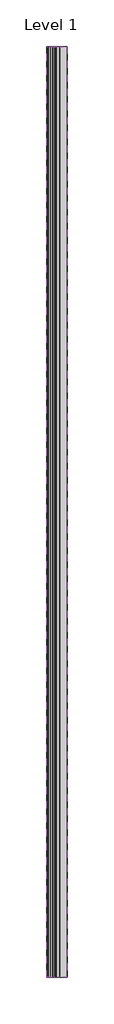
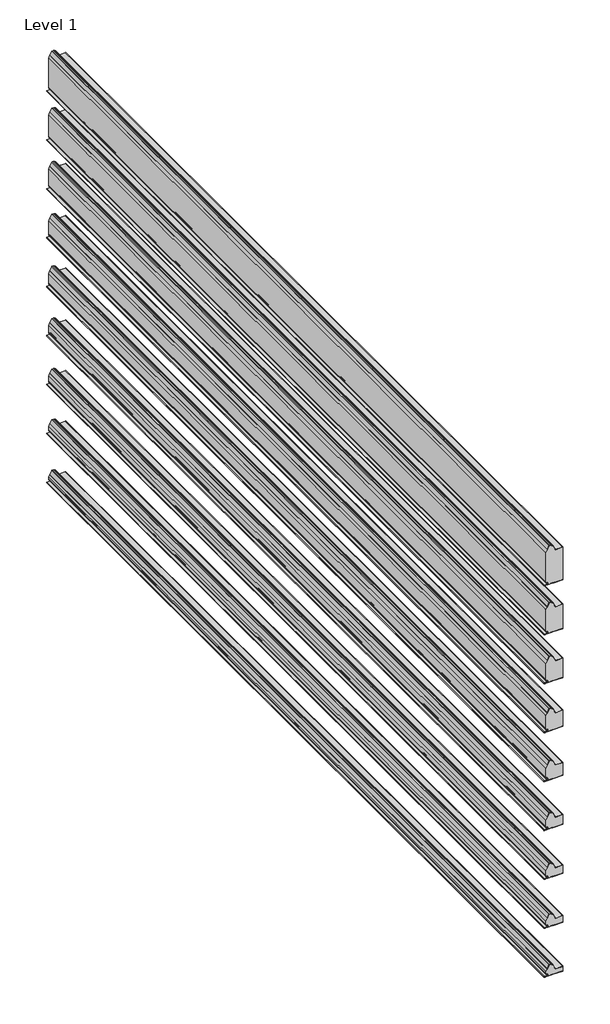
# One storey, incomplete: 9 plates.
"""IFC4 building model written with IfcOpenShell, lengths in millimetres."""

from ifc_helpers import new_model, si_unit, origin, place, context, project, spatial, transform, mapped, element, save
from components import p5g_curtain_panel_72f0a5d6, p5g_curtain_panel_fd8aca23, p5g_curtain_panel_abee4ffd, p5g_curtain_panel_0a1cbbb3, p5g_curtain_panel_074d3782, p5g_curtain_panel_1ca22edd, p5g_curtain_panel_b9cf7069, p5g_curtain_panel_2fcde2e2, p5g_curtain_panel_59ee5e51

model = new_model("IFC4")

# Units and contexts
model_context = context("Model", 3, world=origin())
ifc_project = project(units=[si_unit("LENGTHUNIT", "METRE", prefix="MILLI")], contexts=[model_context])

# Site, building, storey
site = spatial("IfcSite", under=ifc_project)
building = spatial("IfcBuilding", under=site)
storey = spatial("IfcBuildingStorey", under=building, Name="Level 1", Elevation=0.0)

# Plates
placement = place(None, origin())
p5g_curtain_panel_shape = p5g_curtain_panel_72f0a5d6(model_context)
element("IfcPlate", 1, ObjectType="P5G_Curtain-Panel : ACH_P5G_Rib-Roof-Panel_30M", at=placement, inside=storey, context=model_context, shape_type="MappedRepresentation", body=[
    mapped(p5g_curtain_panel_shape, transform((-8968.7651938, -3830.5491567, 500.0), x_axis=(1.0, 0.0, 0.0), y_axis=(0.0, 0.0, -1.0), z_axis=(0.0, 1.0, 0.0))),
])
p5g_curtain_panel_2_shape = p5g_curtain_panel_fd8aca23(model_context)
element("IfcPlate", 2, ObjectType="P5G_Curtain-Panel : ACH_P5G_Rib-Roof-Panel_40M", at=placement, inside=storey, context=model_context, shape_type="MappedRepresentation", body=[
    mapped(p5g_curtain_panel_2_shape, transform((-8968.7651938, -3830.5491567, 800.0), x_axis=(1.0, 0.0, 0.0), y_axis=(0.0, 0.0, -1.0), z_axis=(0.0, 1.0, 0.0))),
])
p5g_curtain_panel_3_shape = p5g_curtain_panel_abee4ffd(model_context)
element("IfcPlate", 3, ObjectType="P5G_Curtain-Panel : ACH_P5G_Rib-Roof-Panel_50M", at=placement, inside=storey, context=model_context, shape_type="MappedRepresentation", body=[
    mapped(p5g_curtain_panel_3_shape, transform((-8968.7651938, -3830.5491567, 1100.0), x_axis=(1.0, 0.0, 0.0), y_axis=(0.0, 0.0, -1.0), z_axis=(0.0, 1.0, 0.0))),
])
p5g_curtain_panel_4_shape = p5g_curtain_panel_0a1cbbb3(model_context)
element("IfcPlate", 4, ObjectType="P5G_Curtain-Panel : ACH_P5G_Rib-Roof-Panel_60M", at=placement, inside=storey, context=model_context, shape_type="MappedRepresentation", body=[
    mapped(p5g_curtain_panel_4_shape, transform((-8968.7651938, -3830.5491567, 1400.0), x_axis=(1.0, 0.0, 0.0), y_axis=(0.0, 0.0, -1.0), z_axis=(0.0, 1.0, 0.0))),
])
p5g_curtain_panel_5_shape = p5g_curtain_panel_074d3782(model_context)
element("IfcPlate", 5, ObjectType="P5G_Curtain-Panel : ACH_P5G_Rib-Roof-Panel_80M", at=placement, inside=storey, context=model_context, shape_type="MappedRepresentation", body=[
    mapped(p5g_curtain_panel_5_shape, transform((-8968.7651938, -3830.5491567, 1700.0), x_axis=(1.0, 0.0, 0.0), y_axis=(0.0, 0.0, -1.0), z_axis=(0.0, 1.0, 0.0))),
])
p5g_curtain_panel_6_shape = p5g_curtain_panel_1ca22edd(model_context)
element("IfcPlate", 6, ObjectType="P5G_Curtain-Panel : ACH_P5G_Rib-Roof-Panel_100M", at=placement, inside=storey, context=model_context, shape_type="MappedRepresentation", body=[
    mapped(p5g_curtain_panel_6_shape, transform((-8968.7651938, -3830.5491567, 2000.0), x_axis=(1.0, 0.0, 0.0), y_axis=(0.0, 0.0, -1.0), z_axis=(0.0, 1.0, 0.0))),
])
p5g_curtain_panel_7_shape = p5g_curtain_panel_b9cf7069(model_context)
element("IfcPlate", 7, ObjectType="P5G_Curtain-Panel : ACH_P5G_Rib-Roof-Panel_120M", at=placement, inside=storey, context=model_context, shape_type="MappedRepresentation", body=[
    mapped(p5g_curtain_panel_7_shape, transform((-8968.7651938, -3830.5491567, 2300.0), x_axis=(1.0, 0.0, 0.0), y_axis=(0.0, 0.0, -1.0), z_axis=(0.0, 1.0, 0.0))),
])
p5g_curtain_panel_8_shape = p5g_curtain_panel_2fcde2e2(model_context)
element("IfcPlate", 8, ObjectType="P5G_Curtain-Panel : ACH_P5G_Rib-Roof-Panel_150M", at=placement, inside=storey, context=model_context, shape_type="MappedRepresentation", body=[
    mapped(p5g_curtain_panel_8_shape, transform((-8968.7651938, -3830.5491567, 2600.0), x_axis=(1.0, 0.0, 0.0), y_axis=(0.0, 0.0, -1.0), z_axis=(0.0, 1.0, 0.0))),
])
p5g_curtain_panel_9_shape = p5g_curtain_panel_59ee5e51(model_context)
element("IfcPlate", 9, ObjectType="P5G_Curtain-Panel : ACH_P5G_Rib-Roof-Panel_200M", at=placement, inside=storey, context=model_context, shape_type="MappedRepresentation", body=[
    mapped(p5g_curtain_panel_9_shape, transform((-8968.7651938, -3830.5491567, 2900.0), x_axis=(1.0, 0.0, 0.0), y_axis=(0.0, 0.0, -1.0), z_axis=(0.0, 1.0, 0.0))),
])

save(model, "model.ifc")
